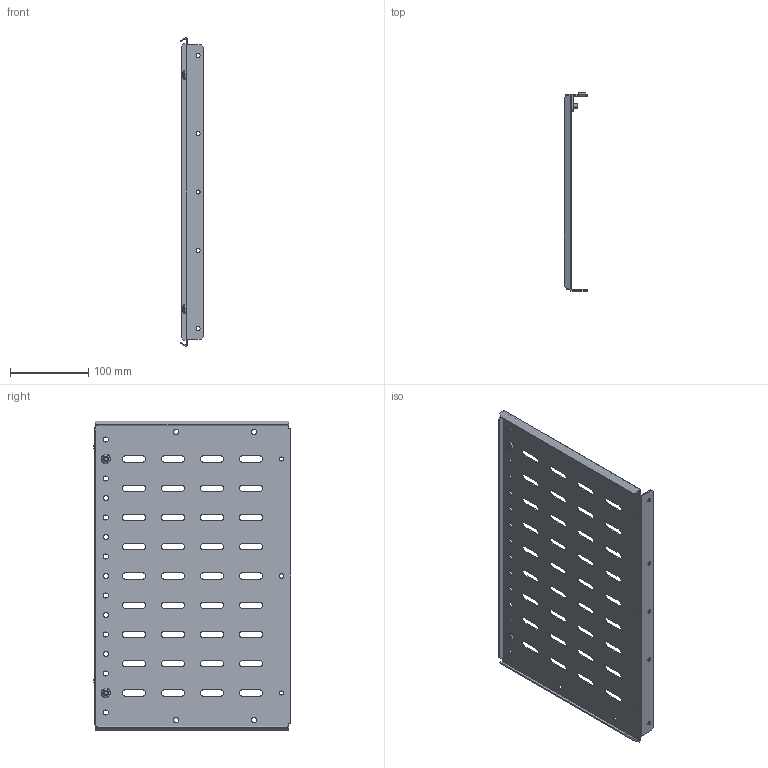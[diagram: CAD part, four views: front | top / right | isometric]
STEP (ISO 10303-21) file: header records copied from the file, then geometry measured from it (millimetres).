
FILE_DESCRIPTION (( 'STEP AP214' ), '1' );
FILE_NAME ('FO-00-SWFB-040 Ïåðåãîðîäêà ñåêöèîíèðîâàíèÿ çàäíÿÿ äëÿ âåðòèêàëüíîãî øèííîãî îòñåêà âûñîòà 400 ìì â øêàô øèðèíîé 600 ìì.STEP', '2025-08-08T11:31:09', ( '' ), ( '' ), 'SwSTEP 2.0', 'SolidWorks 2023', '' );
FILE_SCHEMA (( 'AUTOMOTIVE_DESIGN' ));
Length unit declared in the file: millimetre
Products named in the file (1): FO-00-SWFB-040 Перегородка секционирования задняя для вертикального шинного отсека высота 400 мм в шкаф шириной 600 мм
Bounding box: 30.53 x 253.25 x 397.3 mm (x, y, z)
Volume: 162729.1 mm3; surface area: 220091.9 mm2
Topology: 1 solids, 3 shells, 390 faces, 1118 edges, 740 vertices
Faces by surface type: cylinder 208, plane 166, cone 8, torus 8
Entity records: 13173 total; most frequent: DIRECTION 2340, CARTESIAN_POINT 2249, ORIENTED_EDGE 2236, EDGE_CURVE 1118, AXIS2_PLACEMENT_3D 831, VERTEX_POINT 740, VECTOR 678, LINE 678
